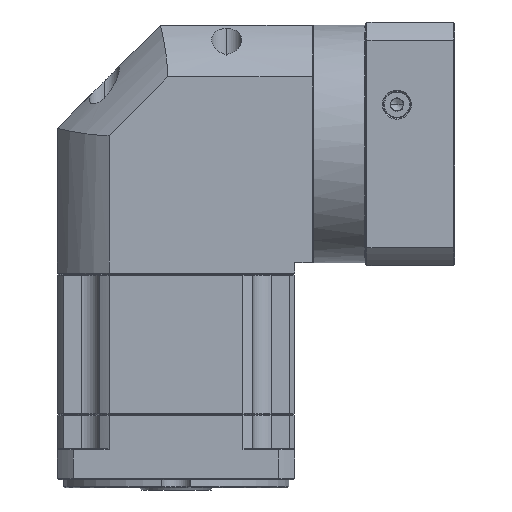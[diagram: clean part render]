
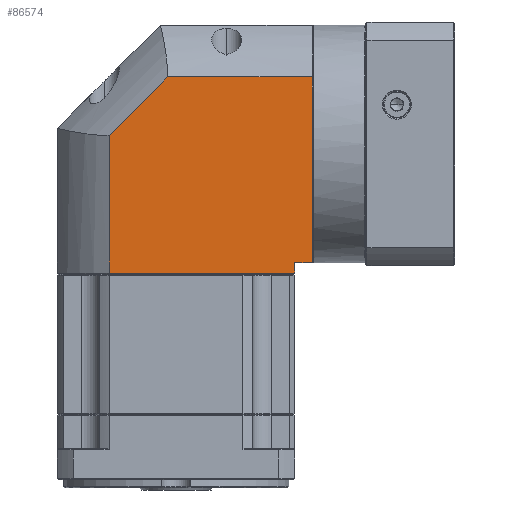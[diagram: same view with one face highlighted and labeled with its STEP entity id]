
A CAD part, front view. The second image highlights one B-rep face of the part: STEP entity #86574.
In plain terms, the highlighted planar face has unit normal (0, -1, 0).
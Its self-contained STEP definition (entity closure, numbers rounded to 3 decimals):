
#754 = VECTOR ( 'NONE', #93661, 1000. ) ;
#1105 = LINE ( 'NONE', #13709, #15395 ) ;
#2112 = CARTESIAN_POINT ( 'NONE',  ( 40.161, 17.224, 58.621 ) ) ;
#8591 = EDGE_CURVE ( 'NONE', #47240, #76566, #45452, .T. ) ;
#10290 = ORIENTED_EDGE ( 'NONE', *, *, #8591, .F. ) ;
#13146 = VERTEX_POINT ( 'NONE', #24381 ) ;
#13709 = CARTESIAN_POINT ( 'NONE',  ( -13.277, 17.224, -36.279 ) ) ;
#15395 = VECTOR ( 'NONE', #25779, 1000. ) ;
#15629 = DIRECTION ( 'NONE',  ( 0., 0., -1. ) ) ;
#18230 = VERTEX_POINT ( 'NONE', #2112 ) ;
#20582 = CARTESIAN_POINT ( 'NONE',  ( -13.277, 17.224, 58.621 ) ) ;
#23896 = ORIENTED_EDGE ( 'NONE', *, *, #24245, .F. ) ;
#24160 = VECTOR ( 'NONE', #15629, 1000. ) ;
#24245 = EDGE_CURVE ( 'NONE', #52356, #13146, #118798, .T. ) ;
#24381 = CARTESIAN_POINT ( 'NONE',  ( 101.723, 17.224, -31.279 ) ) ;
#24959 = ORIENTED_EDGE ( 'NONE', *, *, #55865, .F. ) ;
#25779 = DIRECTION ( 'NONE',  ( -1., 0., 0. ) ) ;
#28151 = DIRECTION ( 'NONE',  ( 0., 0., -1. ) ) ;
#45452 = LINE ( 'NONE', #61126, #122000 ) ;
#46893 = CARTESIAN_POINT ( 'NONE',  ( -13.277, 17.224, -42.779 ) ) ;
#47240 = VERTEX_POINT ( 'NONE', #94781 ) ;
#49570 = CARTESIAN_POINT ( 'NONE',  ( 101.723, 17.224, -42.779 ) ) ;
#51267 = CARTESIAN_POINT ( 'NONE',  ( 110.123, 17.224, -31.279 ) ) ;
#52356 = VERTEX_POINT ( 'NONE', #51267 ) ;
#52544 = EDGE_CURVE ( 'NONE', #87502, #47240, #1105, .T. ) ;
#55865 = EDGE_CURVE ( 'NONE', #76566, #18230, #85263, .T. ) ;
#56767 = CARTESIAN_POINT ( 'NONE',  ( 110.123, 17.224, 58.621 ) ) ;
#59565 = ORIENTED_EDGE ( 'NONE', *, *, #111939, .F. ) ;
#61126 = CARTESIAN_POINT ( 'NONE',  ( 11.823, 17.224, -42.779 ) ) ;
#63480 = CARTESIAN_POINT ( 'NONE',  ( 11.823, 17.224, 30.283 ) ) ;
#66940 = DIRECTION ( 'NONE',  ( 1., 0., 0. ) ) ;
#70418 = LINE ( 'NONE', #118574, #24160 ) ;
#70909 = DIRECTION ( 'NONE',  ( 1., 0., 0. ) ) ;
#72420 = DIRECTION ( 'NONE',  ( 0.707, 0., 0.707 ) ) ;
#73938 = VECTOR ( 'NONE', #28151, 1000. ) ;
#74922 = CARTESIAN_POINT ( 'NONE',  ( -13.277, 17.224, -31.279 ) ) ;
#75696 = VECTOR ( 'NONE', #72420, 1000. ) ;
#76566 = VERTEX_POINT ( 'NONE', #132115 ) ;
#79079 = LINE ( 'NONE', #20582, #126688 ) ;
#80645 = FACE_OUTER_BOUND ( 'NONE', #128814, .T. ) ;
#85263 = LINE ( 'NONE', #63480, #75696 ) ;
#86574 = ADVANCED_FACE ( 'NONE', ( #80645 ), #97281, .F. ) ;
#87352 = ORIENTED_EDGE ( 'NONE', *, *, #52544, .F. ) ;
#87502 = VERTEX_POINT ( 'NONE', #106849 ) ;
#92302 = DIRECTION ( 'NONE',  ( 0., 0., 1. ) ) ;
#93661 = DIRECTION ( 'NONE',  ( -1., 0., 0. ) ) ;
#94781 = CARTESIAN_POINT ( 'NONE',  ( 11.823, 17.224, -36.279 ) ) ;
#97281 = PLANE ( 'NONE',  #128278 ) ;
#97851 = VERTEX_POINT ( 'NONE', #56767 ) ;
#101084 = LINE ( 'NONE', #49570, #73938 ) ;
#101456 = ORIENTED_EDGE ( 'NONE', *, *, #115061, .F. ) ;
#106849 = CARTESIAN_POINT ( 'NONE',  ( 101.723, 17.224, -36.279 ) ) ;
#111939 = EDGE_CURVE ( 'NONE', #97851, #52356, #70418, .T. ) ;
#115061 = EDGE_CURVE ( 'NONE', #13146, #87502, #101084, .T. ) ;
#118574 = CARTESIAN_POINT ( 'NONE',  ( 110.123, 17.224, -42.779 ) ) ;
#118798 = LINE ( 'NONE', #74922, #754 ) ;
#122000 = VECTOR ( 'NONE', #92302, 1000. ) ;
#124521 = ORIENTED_EDGE ( 'NONE', *, *, #125252, .F. ) ;
#125252 = EDGE_CURVE ( 'NONE', #18230, #97851, #79079, .T. ) ;
#126688 = VECTOR ( 'NONE', #70909, 1000. ) ;
#127465 = DIRECTION ( 'NONE',  ( 0., 1., 0. ) ) ;
#128278 = AXIS2_PLACEMENT_3D ( 'NONE', #46893, #127465, #66940 ) ;
#128814 = EDGE_LOOP ( 'NONE', ( #101456, #23896, #59565, #124521, #24959, #10290, #87352 ) ) ;
#132115 = CARTESIAN_POINT ( 'NONE',  ( 11.823, 17.224, 30.283 ) ) ;
